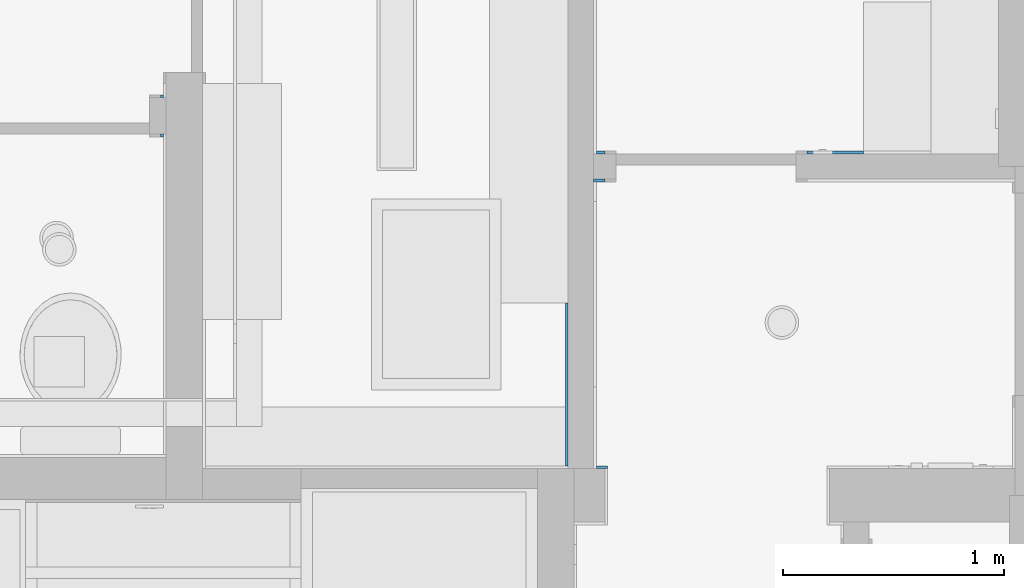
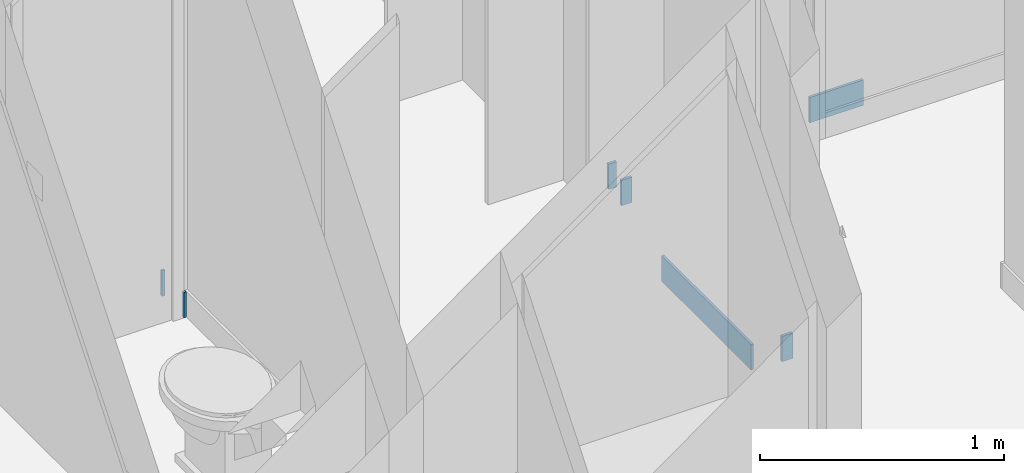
# One storey, part 26 of 81: 7 walls.
"""IFC2X3 building model written with IfcOpenShell, lengths in feet."""

from ifc_helpers import new_model, entity, si_unit, converted_unit, derived_unit, direction, frame, frame_2d, origin, place, context, subcontext, project, spatial, rectangle, extrude, material, layer, layer_set, layer_usage, type_object, element, save


model = new_model("IFC2X3")

# Units and contexts
model_context = context("Model", 3, precision=0.0001, world=origin(), true_north=direction((6.12303176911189e-17, 1.0)))
body_context = subcontext(model_context, "Body", "Model", "MODEL_VIEW")
ifc_project = project(units=[converted_unit("LENGTHUNIT", "FOOT", entity("IfcRatioMeasure", 0.3048), si_unit("LENGTHUNIT", "METRE"), dimensions=[1, 0, 0, 0, 0, 0, 0]), converted_unit("AREAUNIT", "SQUARE FOOT", entity("IfcRatioMeasure", 0.09290304), si_unit("AREAUNIT", "SQUARE_METRE"), dimensions=[2, 0, 0, 0, 0, 0, 0]), converted_unit("VOLUMEUNIT", "CUBIC FOOT", entity("IfcRatioMeasure", 0.028316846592), si_unit("VOLUMEUNIT", "CUBIC_METRE"), dimensions=[3, 0, 0, 0, 0, 0, 0]), converted_unit("PLANEANGLEUNIT", "DEGREE", entity("IfcRatioMeasure", 0.0174532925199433), si_unit("PLANEANGLEUNIT", "RADIAN"), dimensions=[0, 0, 0, 0, 0, 0, 0]), si_unit("MASSUNIT", "GRAM", prefix="KILO"), derived_unit("MASSDENSITYUNIT", [(si_unit("MASSUNIT", "GRAM", prefix="KILO"), 1), (si_unit("LENGTHUNIT", "METRE"), -3)]), derived_unit("MOMENTOFINERTIAUNIT", [(si_unit("LENGTHUNIT", "METRE"), 4)]), si_unit("TIMEUNIT", "SECOND"), si_unit("FREQUENCYUNIT", "HERTZ"), si_unit("THERMODYNAMICTEMPERATUREUNIT", "DEGREE_CELSIUS"), derived_unit("THERMALTRANSMITTANCEUNIT", [(si_unit("MASSUNIT", "GRAM", prefix="KILO"), 1), (si_unit("THERMODYNAMICTEMPERATUREUNIT", "KELVIN"), -1), (si_unit("TIMEUNIT", "SECOND"), -3)]), derived_unit("VOLUMETRICFLOWRATEUNIT", [(si_unit("LENGTHUNIT", "METRE"), 3), (si_unit("TIMEUNIT", "SECOND"), -1)]), si_unit("ELECTRICCURRENTUNIT", "AMPERE"), si_unit("ELECTRICVOLTAGEUNIT", "VOLT"), si_unit("POWERUNIT", "WATT"), si_unit("FORCEUNIT", "NEWTON"), si_unit("ILLUMINANCEUNIT", "LUX"), si_unit("LUMINOUSFLUXUNIT", "LUMEN"), si_unit("LUMINOUSINTENSITYUNIT", "CANDELA"), derived_unit("USERDEFINED", [(si_unit("MASSUNIT", "GRAM", prefix="KILO"), -1), (si_unit("LENGTHUNIT", "METRE"), -2), (si_unit("TIMEUNIT", "SECOND"), 3), (si_unit("LUMINOUSFLUXUNIT", "LUMEN"), 1)]), derived_unit("LINEARVELOCITYUNIT", [(si_unit("LENGTHUNIT", "METRE"), 1), (si_unit("TIMEUNIT", "SECOND"), -1)]), si_unit("PRESSUREUNIT", "PASCAL"), derived_unit("USERDEFINED", [(si_unit("LENGTHUNIT", "METRE"), -2), (si_unit("MASSUNIT", "GRAM", prefix="KILO"), 1), (si_unit("TIMEUNIT", "SECOND"), -2)]), derived_unit("LINEARFORCEUNIT", [(si_unit("MASSUNIT", "GRAM", prefix="KILO"), 1), (si_unit("LENGTHUNIT", "METRE"), 1), (si_unit("TIMEUNIT", "SECOND"), -2), (si_unit("LENGTHUNIT", "METRE"), -1)]), derived_unit("PLANARFORCEUNIT", [(si_unit("MASSUNIT", "GRAM", prefix="KILO"), 1), (si_unit("LENGTHUNIT", "METRE"), 1), (si_unit("TIMEUNIT", "SECOND"), -2), (si_unit("LENGTHUNIT", "METRE"), -2)])], contexts=[model_context])

# Site, building, storey
site_placement = place(None, origin())
site = spatial("IfcSite", under=ifc_project, at=site_placement, Name="Default", CompositionType="ELEMENT")
building_placement = place(site_placement, origin())
building = spatial("IfcBuilding", under=site, at=building_placement, CompositionType="ELEMENT")
storey_placement = place(building_placement, origin())
storey = spatial("IfcBuildingStorey", under=building, at=storey_placement, Name="First floor", CompositionType="ELEMENT", Elevation=0.0)

# Walls
ifc_material = material(Name="Default New Material")
ifc_layer = layer(ifc_material, 0.0416666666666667)
ifc_layer_set = layer_set([ifc_layer], Name="Basic Wall:Wall Border_T1")
ifc_layer_usage_1 = layer_usage(ifc_layer_set, "AXIS2", "NEGATIVE", 0.0208333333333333)
wall_type = type_object("IfcWallType", Name="Basic Wall:Wall Border_T1", PredefinedType="STANDARD", material=ifc_layer_set)
wall_1_placement = place(storey_placement, frame((13.9166666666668, 37.6871548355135, 10.6666666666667), z_axis=(0.0, 0.0, 1.0), x_axis=(-1.0, 0.0, 0.0)))
element("IfcWallStandardCase", 1, at=wall_1_placement, inside=storey, type_object=wall_type, material=ifc_layer_usage_1, Name="Basic Wall:Wall Border_T1", ObjectType="Basic Wall:Wall Border_T1", context=body_context, shape_type="SweptSolid", body=[
    extrude(rectangle(XDim=0.166666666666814, YDim=0.0416666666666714, at=frame_2d((0.0833333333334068, 0.0), x_axis=(-1.0, 0.0))), origin(), (0.0, 0.0, 1.0), 0.416666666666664),
])
ifc_layer_usage_2 = layer_usage(ifc_layer_set, "AXIS2", "NEGATIVE", 0.0208333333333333)
wall_2_placement = place(storey_placement, frame((13.7916666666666, 33.4371548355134, 10.6666666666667)))
element("IfcWallStandardCase", 2, at=wall_2_placement, inside=storey, type_object=wall_type, material=ifc_layer_usage_2, Name="Basic Wall:Wall Border_T1", ObjectType="Basic Wall:Wall Border_T1", context=body_context, shape_type="SweptSolid", body=[
    extrude(rectangle(XDim=0.166666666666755, YDim=0.0416666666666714, at=frame_2d((0.0833333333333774, 0.0), x_axis=(-1.0, 0.0))), origin(), (0.0, 0.0, 1.0), 0.416666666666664),
])
ifc_layer_usage_3 = layer_usage(ifc_layer_set, "AXIS2", "NEGATIVE", 0.0208333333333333)
wall_3_placement = place(storey_placement, frame((7.3333333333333, 38.9371548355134, 10.6666666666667)))
element("IfcWallStandardCase", 3, at=wall_3_placement, inside=storey, type_object=wall_type, material=ifc_layer_usage_3, Name="Basic Wall:Wall Border_T1", ObjectType="Basic Wall:Wall Border_T1", context=body_context, shape_type="SweptSolid", body=[
    extrude(rectangle(XDim=0.0416666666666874, YDim=0.0416666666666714, at=frame_2d((0.0208333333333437, -3.13984949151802e-16), x_axis=(-1.0, 0.0))), origin(), (0.0, 0.0, 1.0), 0.416666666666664),
])
ifc_layer_usage_4 = layer_usage(ifc_layer_set, "AXIS2", "NEGATIVE", 0.0208333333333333)
wall_4_placement = place(storey_placement, frame((7.37499999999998, 38.3538215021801, 10.6666666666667), z_axis=(0.0, 0.0, 1.0), x_axis=(-1.0, 0.0, 0.0)))
element("IfcWallStandardCase", 4, at=wall_4_placement, inside=storey, type_object=wall_type, material=ifc_layer_usage_4, Name="Basic Wall:Wall Border_T1", ObjectType="Basic Wall:Wall Border_T1", context=body_context, shape_type="SweptSolid", body=[
    extrude(rectangle(XDim=0.0416666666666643, YDim=0.0416666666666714, at=frame_2d((0.0208333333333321, 0.0), x_axis=(-1.0, 0.0))), origin(), (0.0, 0.0, 1.0), 0.416666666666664),
])
ifc_layer_usage_5 = layer_usage(ifc_layer_set, "AXIS2", "NEGATIVE", 0.0208333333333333)
wall_5_placement = place(storey_placement, frame((13.3541666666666, 33.4583333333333, 10.6666666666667), z_axis=(0.0, 0.0, 1.0), x_axis=(0.0, 1.0, 0.0)))
element("IfcWallStandardCase", 5, at=wall_5_placement, inside=storey, type_object=wall_type, material=ifc_layer_usage_5, Name="Basic Wall:Wall Border_T1", ObjectType="Basic Wall:Wall Border_T1", context=body_context, shape_type="SweptSolid", body=[
    extrude(rectangle(XDim=2.41632150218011, YDim=0.0416666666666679, at=frame_2d((1.20816075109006, 0.0), x_axis=(-1.0, 0.0))), origin(), (0.0, 0.0, 1.0), 0.416666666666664),
])
ifc_layer_usage_6 = layer_usage(ifc_layer_set, "AXIS2", "NEGATIVE", 0.0208333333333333)
wall_6_placement = place(storey_placement, frame((13.7916666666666, 38.1038215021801, 10.6666666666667)))
element("IfcWallStandardCase", 6, at=wall_6_placement, inside=storey, type_object=wall_type, material=ifc_layer_usage_6, Name="Basic Wall:Wall Border_T1", ObjectType="Basic Wall:Wall Border_T1", context=body_context, shape_type="SweptSolid", body=[
    extrude(rectangle(XDim=0.125000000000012, YDim=0.0416666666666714, at=frame_2d((0.0625000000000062, 0.0), x_axis=(-1.0, 0.0))), origin(), (0.0, 0.0, 1.0), 0.416666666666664),
])
ifc_layer_usage_7 = layer_usage(ifc_layer_set, "AXIS2", "NEGATIVE", 0.0208333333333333)
wall_7_placement = place(storey_placement, frame((16.9166666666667, 38.1038215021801, 10.6666666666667)))
element("IfcWallStandardCase", 7, at=wall_7_placement, inside=storey, type_object=wall_type, material=ifc_layer_usage_7, Name="Basic Wall:Wall Border_T1", ObjectType="Basic Wall:Wall Border_T1", context=body_context, shape_type="SweptSolid", body=[
    extrude(rectangle(XDim=0.833333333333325, YDim=0.0416666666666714, at=frame_2d((0.416666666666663, 0.0), x_axis=(-1.0, 0.0))), origin(), (0.0, 0.0, 1.0), 0.416666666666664),
])

save(model, "model.ifc")
